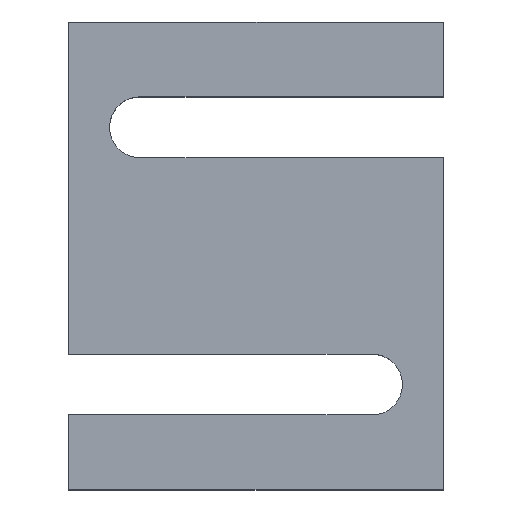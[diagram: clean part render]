
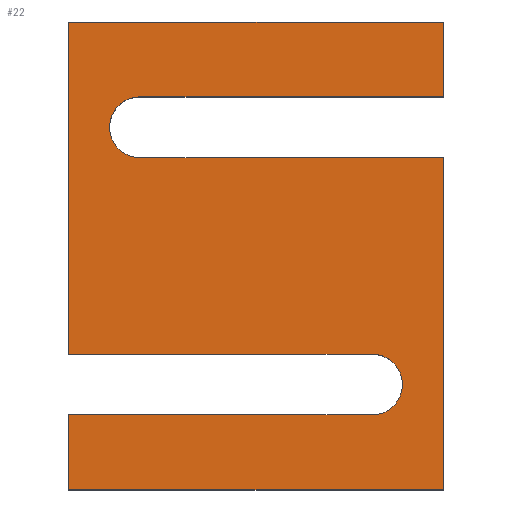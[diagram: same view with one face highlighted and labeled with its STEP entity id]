
A CAD part, top view. The second image highlights one B-rep face of the part: STEP entity #22.
In plain terms, the highlighted planar face has unit normal (0, 0, 1).
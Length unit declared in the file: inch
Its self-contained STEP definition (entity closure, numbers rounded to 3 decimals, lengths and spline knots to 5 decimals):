
#12 = DIRECTION ( 'NONE',  ( 1., 0., 0. ) ) ;
#14 = EDGE_CURVE ( 'NONE', #593, #20, #443, .T. ) ;
#19 = VECTOR ( 'NONE', #294, 39.37008 ) ;
#20 = VERTEX_POINT ( 'NONE', #70 ) ;
#22 = ADVANCED_FACE ( 'NONE', ( #92 ), #445, .T. ) ;
#31 = EDGE_CURVE ( 'NONE', #343, #365, #430, .T. ) ;
#35 = CARTESIAN_POINT ( 'NONE',  ( 0.62, -0.525, 0.25 ) ) ;
#38 = DIRECTION ( 'NONE',  ( 0., -1., 0. ) ) ;
#47 = VERTEX_POINT ( 'NONE', #601 ) ;
#48 = VERTEX_POINT ( 'NONE', #276 ) ;
#52 = DIRECTION ( 'NONE',  ( 1., 0., 0. ) ) ;
#70 = CARTESIAN_POINT ( 'NONE',  ( -0.62, 0.525, 0.25 ) ) ;
#89 = VERTEX_POINT ( 'NONE', #401 ) ;
#92 = FACE_OUTER_BOUND ( 'NONE', #474, .T. ) ;
#94 = CARTESIAN_POINT ( 'NONE',  ( -0.62, 0.6875, 0.25 ) ) ;
#95 = DIRECTION ( 'NONE',  ( 1., 0., 0. ) ) ;
#98 = DIRECTION ( 'NONE',  ( 0., 0., -1. ) ) ;
#122 = LINE ( 'NONE', #412, #358 ) ;
#129 = ORIENTED_EDGE ( 'NONE', *, *, #448, .T. ) ;
#132 = DIRECTION ( 'NONE',  ( 0., 1., 0. ) ) ;
#137 = CIRCLE ( 'NONE', #199, 0.1625 ) ;
#140 = DIRECTION ( 'NONE',  ( -1., 0., 0. ) ) ;
#143 = CIRCLE ( 'NONE', #373, 0.1625 ) ;
#144 = EDGE_CURVE ( 'NONE', #47, #314, #420, .T. ) ;
#155 = EDGE_CURVE ( 'NONE', #526, #593, #644, .T. ) ;
#156 = ORIENTED_EDGE ( 'NONE', *, *, #144, .T. ) ;
#169 = DIRECTION ( 'NONE',  ( -1., 0., 0. ) ) ;
#172 = CARTESIAN_POINT ( 'NONE',  ( -0.62, 0.6875, 0.25 ) ) ;
#179 = VECTOR ( 'NONE', #12, 39.37008 ) ;
#191 = CARTESIAN_POINT ( 'NONE',  ( -1., 1.25, 0.25 ) ) ;
#194 = CARTESIAN_POINT ( 'NONE',  ( 1., 0.85, 0.25 ) ) ;
#199 = AXIS2_PLACEMENT_3D ( 'NONE', #94, #98, #464 ) ;
#201 = ORIENTED_EDGE ( 'NONE', *, *, #205, .T. ) ;
#205 = EDGE_CURVE ( 'NONE', #314, #313, #682, .T. ) ;
#206 = DIRECTION ( 'NONE',  ( 0., 0., -1. ) ) ;
#210 = VECTOR ( 'NONE', #95, 39.37008 ) ;
#213 = VECTOR ( 'NONE', #486, 39.37008 ) ;
#217 = LINE ( 'NONE', #568, #210 ) ;
#223 = CARTESIAN_POINT ( 'NONE',  ( 1., 0.525, 0.25 ) ) ;
#225 = DIRECTION ( 'NONE',  ( 0., 0., 1. ) ) ;
#260 = EDGE_CURVE ( 'NONE', #313, #89, #122, .T. ) ;
#267 = VERTEX_POINT ( 'NONE', #519 ) ;
#270 = VECTOR ( 'NONE', #38, 39.37008 ) ;
#276 = CARTESIAN_POINT ( 'NONE',  ( -1., -1.25, 0.25 ) ) ;
#278 = ORIENTED_EDGE ( 'NONE', *, *, #31, .T. ) ;
#287 = EDGE_CURVE ( 'NONE', #48, #526, #217, .T. ) ;
#288 = CARTESIAN_POINT ( 'NONE',  ( -0.62, 0.85, 0.25 ) ) ;
#294 = DIRECTION ( 'NONE',  ( 0., 1., 0. ) ) ;
#296 = ORIENTED_EDGE ( 'NONE', *, *, #625, .T. ) ;
#298 = VECTOR ( 'NONE', #132, 39.37008 ) ;
#310 = EDGE_CURVE ( 'NONE', #89, #343, #566, .T. ) ;
#313 = VERTEX_POINT ( 'NONE', #353 ) ;
#314 = VERTEX_POINT ( 'NONE', #194 ) ;
#316 = DIRECTION ( 'NONE',  ( 0., 0., -1. ) ) ;
#334 = VECTOR ( 'NONE', #611, 39.37008 ) ;
#341 = AXIS2_PLACEMENT_3D ( 'NONE', #172, #225, #595 ) ;
#343 = VERTEX_POINT ( 'NONE', #680 ) ;
#349 = EDGE_CURVE ( 'NONE', #267, #47, #137, .T. ) ;
#350 = ORIENTED_EDGE ( 'NONE', *, *, #546, .T. ) ;
#353 = CARTESIAN_POINT ( 'NONE',  ( 1., 1.25, 0.25 ) ) ;
#356 = CARTESIAN_POINT ( 'NONE',  ( 1., 0.85, 0.25 ) ) ;
#358 = VECTOR ( 'NONE', #140, 39.37008 ) ;
#365 = VERTEX_POINT ( 'NONE', #35 ) ;
#366 = CARTESIAN_POINT ( 'NONE',  ( 0.62, -0.6875, 0.25 ) ) ;
#373 = AXIS2_PLACEMENT_3D ( 'NONE', #366, #316, #52 ) ;
#391 = DIRECTION ( 'NONE',  ( -1., 0., 0. ) ) ;
#393 = VERTEX_POINT ( 'NONE', #530 ) ;
#400 = VERTEX_POINT ( 'NONE', #417 ) ;
#401 = CARTESIAN_POINT ( 'NONE',  ( -1., 1.25, 0.25 ) ) ;
#412 = CARTESIAN_POINT ( 'NONE',  ( 1., 1.25, 0.25 ) ) ;
#415 = DIRECTION ( 'NONE',  ( 1., 0., 0. ) ) ;
#417 = CARTESIAN_POINT ( 'NONE',  ( 0.62, -0.85, 0.25 ) ) ;
#420 = LINE ( 'NONE', #288, #334 ) ;
#423 = VECTOR ( 'NONE', #169, 39.37008 ) ;
#424 = EDGE_CURVE ( 'NONE', #20, #267, #675, .T. ) ;
#430 = LINE ( 'NONE', #501, #179 ) ;
#436 = CARTESIAN_POINT ( 'NONE',  ( -1., -0.85, 0.25 ) ) ;
#438 = CARTESIAN_POINT ( 'NONE',  ( -0.62, 0.525, 0.25 ) ) ;
#439 = ORIENTED_EDGE ( 'NONE', *, *, #287, .T. ) ;
#443 = LINE ( 'NONE', #438, #571 ) ;
#445 = PLANE ( 'NONE',  #341 ) ;
#448 = EDGE_CURVE ( 'NONE', #365, #400, #143, .T. ) ;
#458 = ORIENTED_EDGE ( 'NONE', *, *, #14, .T. ) ;
#464 = DIRECTION ( 'NONE',  ( 1., 0., 0. ) ) ;
#473 = CARTESIAN_POINT ( 'NONE',  ( -0.62, 0.6875, 0.25 ) ) ;
#474 = EDGE_LOOP ( 'NONE', ( #350, #439, #623, #458, #612, #508, #156, #201, #689, #628, #278, #129, #296 ) ) ;
#486 = DIRECTION ( 'NONE',  ( 0., -1., 0. ) ) ;
#501 = CARTESIAN_POINT ( 'NONE',  ( -1., -0.525, 0.25 ) ) ;
#508 = ORIENTED_EDGE ( 'NONE', *, *, #349, .T. ) ;
#519 = CARTESIAN_POINT ( 'NONE',  ( -0.7825, 0.6875, 0.25 ) ) ;
#526 = VERTEX_POINT ( 'NONE', #685 ) ;
#530 = CARTESIAN_POINT ( 'NONE',  ( -1., -0.85, 0.25 ) ) ;
#545 = AXIS2_PLACEMENT_3D ( 'NONE', #473, #206, #415 ) ;
#546 = EDGE_CURVE ( 'NONE', #393, #48, #562, .T. ) ;
#562 = LINE ( 'NONE', #639, #213 ) ;
#566 = LINE ( 'NONE', #191, #270 ) ;
#568 = CARTESIAN_POINT ( 'NONE',  ( -1., -1.25, 0.25 ) ) ;
#571 = VECTOR ( 'NONE', #391, 39.37008 ) ;
#593 = VERTEX_POINT ( 'NONE', #223 ) ;
#595 = DIRECTION ( 'NONE',  ( 1., 0., 0. ) ) ;
#601 = CARTESIAN_POINT ( 'NONE',  ( -0.62, 0.85, 0.25 ) ) ;
#611 = DIRECTION ( 'NONE',  ( 1., 0., 0. ) ) ;
#612 = ORIENTED_EDGE ( 'NONE', *, *, #424, .T. ) ;
#616 = CARTESIAN_POINT ( 'NONE',  ( 1., -1.25, 0.25 ) ) ;
#623 = ORIENTED_EDGE ( 'NONE', *, *, #155, .T. ) ;
#625 = EDGE_CURVE ( 'NONE', #400, #393, #670, .T. ) ;
#628 = ORIENTED_EDGE ( 'NONE', *, *, #310, .T. ) ;
#639 = CARTESIAN_POINT ( 'NONE',  ( -1., -0.85, 0.25 ) ) ;
#644 = LINE ( 'NONE', #616, #298 ) ;
#670 = LINE ( 'NONE', #436, #423 ) ;
#675 = CIRCLE ( 'NONE', #545, 0.1625 ) ;
#680 = CARTESIAN_POINT ( 'NONE',  ( -1., -0.525, 0.25 ) ) ;
#682 = LINE ( 'NONE', #356, #19 ) ;
#685 = CARTESIAN_POINT ( 'NONE',  ( 1., -1.25, 0.25 ) ) ;
#689 = ORIENTED_EDGE ( 'NONE', *, *, #260, .T. ) ;
